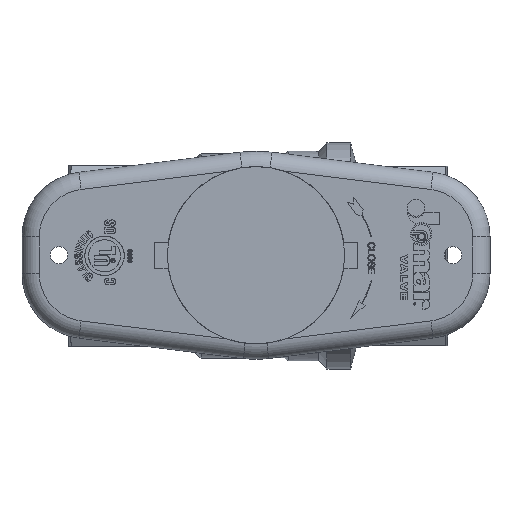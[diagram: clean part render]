
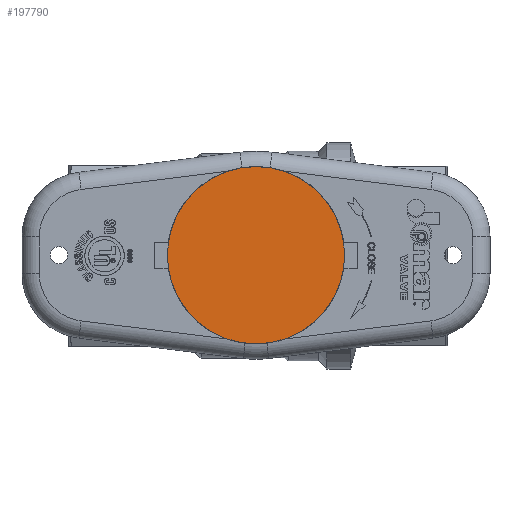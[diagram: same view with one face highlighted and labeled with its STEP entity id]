
A CAD part, top view. The second image highlights one B-rep face of the part: STEP entity #197790.
In plain terms, the highlighted planar face has unit normal (0, 0, 1).
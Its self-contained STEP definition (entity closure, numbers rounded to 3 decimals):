
#197582 = CYLINDRICAL_SURFACE('',#197583,0.777);
#197583 = AXIS2_PLACEMENT_3D('',#197584,#197585,#197586);
#197584 = CARTESIAN_POINT('',(1.64,0.,
    3.925));
#197585 = DIRECTION('',(0.,0.,-1.));
#197586 = DIRECTION('',(0.,1.,0.));
#197657 = VERTEX_POINT('',#197658);
#197658 = CARTESIAN_POINT('',(1.64,0.777,
    3.925));
#197678 = EDGE_CURVE('',#197657,#197657,#197679,.T.);
#197679 = SURFACE_CURVE('',#197680,(#197685,#197692),.PCURVE_S1.);
#197680 = CIRCLE('',#197681,0.777);
#197681 = AXIS2_PLACEMENT_3D('',#197682,#197683,#197684);
#197682 = CARTESIAN_POINT('',(1.64,0.,
    3.925));
#197683 = DIRECTION('',(0.,0.,1.));
#197684 = DIRECTION('',(0.,1.,0.));
#197685 = PCURVE('',#197582,#197686);
#197686 = DEFINITIONAL_REPRESENTATION('',(#197687),#197691);
#197687 = LINE('',#197688,#197689);
#197688 = CARTESIAN_POINT('',(6.283,0.));
#197689 = VECTOR('',#197690,1.);
#197690 = DIRECTION('',(-1.,0.));
#197691 = ( GEOMETRIC_REPRESENTATION_CONTEXT(2) 
PARAMETRIC_REPRESENTATION_CONTEXT() REPRESENTATION_CONTEXT('2D SPACE',''
  ) );
#197692 = PCURVE('',#197693,#197698);
#197693 = PLANE('',#197694);
#197694 = AXIS2_PLACEMENT_3D('',#197695,#197696,#197697);
#197695 = CARTESIAN_POINT('',(1.64,0.,
    3.925));
#197696 = DIRECTION('',(0.,0.,1.));
#197697 = DIRECTION('',(0.,1.,0.));
#197698 = DEFINITIONAL_REPRESENTATION('',(#197699),#197703);
#197699 = CIRCLE('',#197700,0.777);
#197700 = AXIS2_PLACEMENT_2D('',#197701,#197702);
#197701 = CARTESIAN_POINT('',(0.,0.));
#197702 = DIRECTION('',(1.,0.));
#197703 = ( GEOMETRIC_REPRESENTATION_CONTEXT(2) 
PARAMETRIC_REPRESENTATION_CONTEXT() REPRESENTATION_CONTEXT('2D SPACE',''
  ) );
#197790 = ADVANCED_FACE('',(#197791),#197693,.T.);
#197791 = FACE_BOUND('',#197792,.T.);
#197792 = EDGE_LOOP('',(#197793));
#197793 = ORIENTED_EDGE('',*,*,#197678,.T.);
